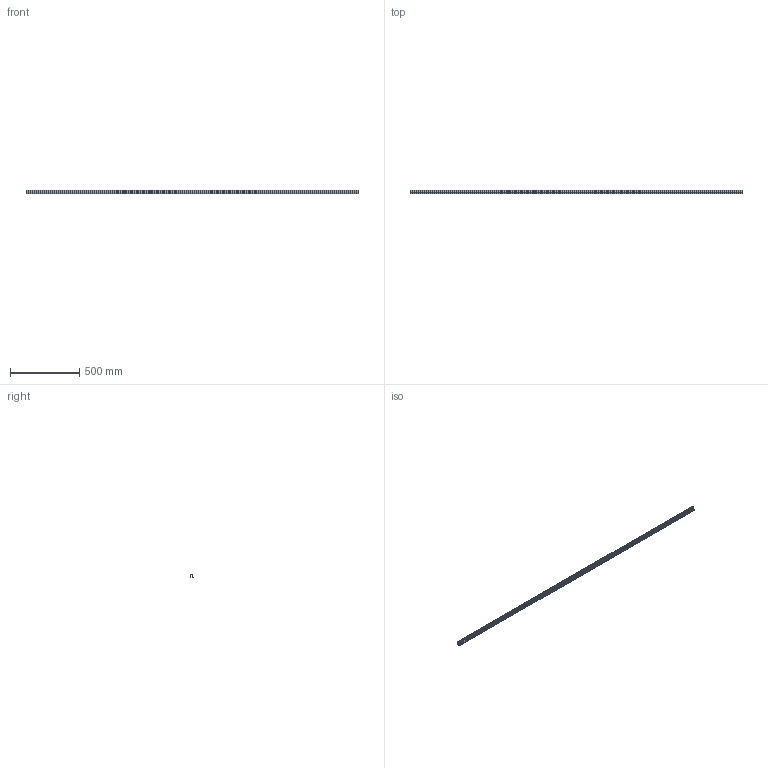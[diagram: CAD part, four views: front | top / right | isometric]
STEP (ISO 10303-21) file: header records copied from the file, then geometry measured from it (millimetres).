
FILE_DESCRIPTION( ( '' ), '1' );
FILE_NAME( 'C:/Users/dhek/Desktop/New folder/SAT., STP., IGS/Wingline L/9237917.stp', '2017-09-14T10:49:03', ( '' ), ( '' ), ' ', ' ', ' ' );
FILE_SCHEMA( ( 'CONFIG_CONTROL_DESIGN' ) );
Length unit declared in the file: millimetre
Products named in the file (1): 1
Bounding box: 2400 x 23 x 25 mm (x, y, z)
Volume: 276515.8 mm3; surface area: 329612.2 mm2
Topology: 1 solids, 1 shells, 35 faces, 99 edges, 66 vertices
Faces by surface type: cylinder 18, plane 17
Entity records: 1193 total; most frequent: DIRECTION 207, CARTESIAN_POINT 201, ORIENTED_EDGE 198, EDGE_CURVE 99, AXIS2_PLACEMENT_3D 72, VERTEX_POINT 66, LINE 63, VECTOR 63
